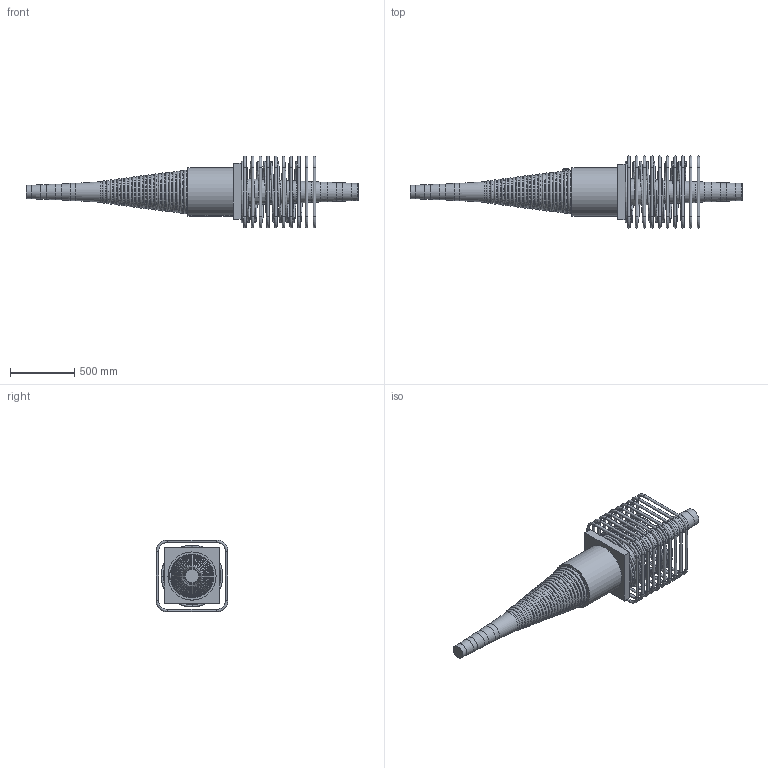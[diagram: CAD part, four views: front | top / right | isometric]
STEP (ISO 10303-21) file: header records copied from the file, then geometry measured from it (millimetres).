
FILE_DESCRIPTION(/* description */ (''),/* implementation_level */ '2;1');
FILE_NAME(/* name */ 'Z:\04 Publications\05 Give-out\BBR\6_3D_Models\BBR VT CONA CMI\BBR VT CONA CMI SP\03106\BBR VT CONA CMI SP 3106_Coupler H Assembly_CS-34,28.stp',/* time_stamp */ '2017-05-09T10:15:04+02:00',/* author */ ('IP'),/* organization */ (''),/* preprocessor_version */ 'ST-DEVELOPER v16.1',/* originating_system */ 'Autodesk Inventor 2016',/* authorisation */ '');
FILE_SCHEMA (('AUTOMOTIVE_DESIGN { 1 0 10303 214 3 1 1 }'));
Products named in the file (1): BBR VT CONA CMI SP 3106_Coupler H Assembly_CS-34,28
Bounding box: 2584.52 x 560 x 560 mm (x, y, z)
Volume: 123614911.8 mm3; surface area: 4128001.4 mm2
Topology: 12 solids, 12 shells, 940 faces, 2401 edges, 1531 vertices
Faces by surface type: bspline 402, plane 266, torus 124, cylinder 110, cone 30, sphere 8
Full cylindrical faces by diameter (mm): 20 x40, 34.089 x1, 57.089 x1, 104 x1, 114 x1, 124 x1, 134 x1, 375 x1
Entity records: 41795 total; most frequent: CARTESIAN_POINT 21916, ORIENTED_EDGE 4408, DIRECTION 2944, EDGE_CURVE 2201, VERTEX_POINT 1525, EDGE_LOOP 1205, AXIS2_PLACEMENT_3D 1010, FACE_OUTER_BOUND 940
